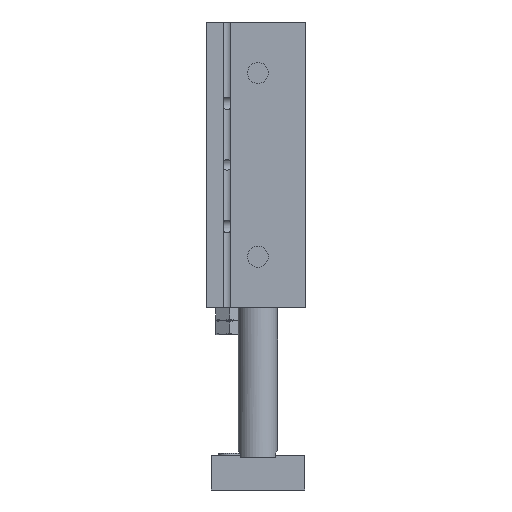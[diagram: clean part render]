
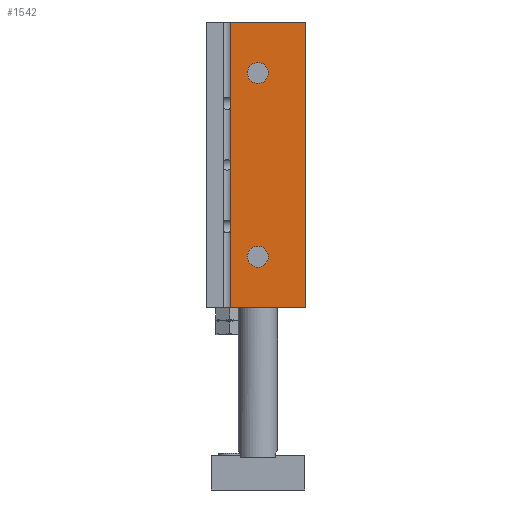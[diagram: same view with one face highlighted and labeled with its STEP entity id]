
A CAD part, front view. The second image highlights one B-rep face of the part: STEP entity #1542.
In plain terms, the highlighted planar face has unit normal (0, -1, 0).
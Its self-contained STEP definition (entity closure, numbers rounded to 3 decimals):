
#1380=CARTESIAN_POINT('',(-11.,-48.,190.0));
#1381=VERTEX_POINT('',#1380);
#1389=CARTESIAN_POINT('',(-11.,-48.,74.0));
#1390=VERTEX_POINT('',#1389);
#1397=CARTESIAN_POINT('',(-11.,-48.,190.0));
#1398=DIRECTION('',(0.0,0.0,-1.0));
#1399=VECTOR('',#1398,116.0);
#1400=LINE('',#1397,#1399);
#1401=EDGE_CURVE('',#1381,#1390,#1400,.T.);
#1490=CARTESIAN_POINT('',(19.5,-48.,74.0));
#1491=DIRECTION('',(0.0,-1.0,0.0));
#1492=DIRECTION('',(0.0,0.0,-1.0));
#1493=AXIS2_PLACEMENT_3D('',#1490,#1491,#1492);
#1494=PLANE('',#1493);
#1495=ORIENTED_EDGE('',*,*,#1401,.T.);
#1496=CARTESIAN_POINT('',(19.5,-48.,74.0));
#1497=VERTEX_POINT('',#1496);
#1498=CARTESIAN_POINT('',(19.5,-48.,74.0));
#1499=DIRECTION('',(-1.0,0.0,0.0));
#1500=VECTOR('',#1499,30.5);
#1501=LINE('',#1498,#1500);
#1502=EDGE_CURVE('',#1497,#1390,#1501,.T.);
#1503=ORIENTED_EDGE('',*,*,#1502,.F.);
#1504=CARTESIAN_POINT('',(19.5,-48.,190.0));
#1505=VERTEX_POINT('',#1504);
#1506=CARTESIAN_POINT('',(19.5,-48.,74.0));
#1507=DIRECTION('',(0.0,0.0,1.0));
#1508=VECTOR('',#1507,116.0);
#1509=LINE('',#1506,#1508);
#1510=EDGE_CURVE('',#1497,#1505,#1509,.T.);
#1511=ORIENTED_EDGE('',*,*,#1510,.T.);
#1512=CARTESIAN_POINT('',(19.5,-48.,190.0));
#1513=DIRECTION('',(-1.0,0.0,0.0));
#1514=VECTOR('',#1513,30.5);
#1515=LINE('',#1512,#1514);
#1516=EDGE_CURVE('',#1505,#1381,#1515,.T.);
#1517=ORIENTED_EDGE('',*,*,#1516,.T.);
#1518=EDGE_LOOP('',(#1495,#1503,#1511,#1517));
#1519=FACE_OUTER_BOUND('',#1518,.T.);
#1520=CARTESIAN_POINT('',(4.25,-48.,169.3));
#1521=VERTEX_POINT('',#1520);
#1522=CARTESIAN_POINT('',(0.0,-48.,169.3));
#1523=DIRECTION('',(0.0,1.0,0.0));
#1524=DIRECTION('',(-1.0,0.0,0.0));
#1525=AXIS2_PLACEMENT_3D('',#1522,#1523,#1524);
#1526=CIRCLE('',#1525,4.25);
#1527=EDGE_CURVE('',#1521,#1521,#1526,.T.);
#1528=ORIENTED_EDGE('',*,*,#1527,.T.);
#1529=EDGE_LOOP('',(#1528));
#1530=FACE_BOUND('',#1529,.T.);
#1531=CARTESIAN_POINT('',(4.25,-48.,94.7));
#1532=VERTEX_POINT('',#1531);
#1533=CARTESIAN_POINT('',(0.0,-48.,94.7));
#1534=DIRECTION('',(0.0,1.0,0.0));
#1535=DIRECTION('',(-1.0,0.0,0.0));
#1536=AXIS2_PLACEMENT_3D('',#1533,#1534,#1535);
#1537=CIRCLE('',#1536,4.25);
#1538=EDGE_CURVE('',#1532,#1532,#1537,.T.);
#1539=ORIENTED_EDGE('',*,*,#1538,.T.);
#1540=EDGE_LOOP('',(#1539));
#1541=FACE_BOUND('',#1540,.T.);
#1542=ADVANCED_FACE('',(#1519,#1530,#1541),#1494,.T.);
